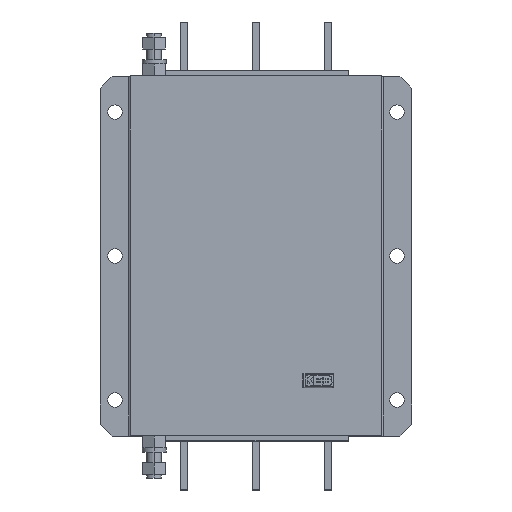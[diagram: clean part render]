
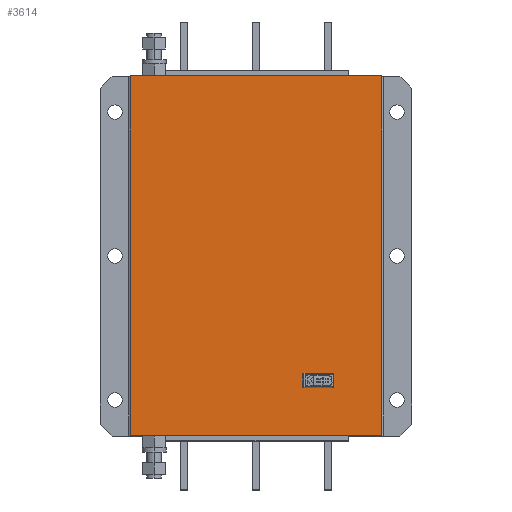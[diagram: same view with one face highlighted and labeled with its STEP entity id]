
A CAD part, top view. The second image highlights one B-rep face of the part: STEP entity #3614.
In plain terms, the highlighted planar face has unit normal (0, 0, 1).
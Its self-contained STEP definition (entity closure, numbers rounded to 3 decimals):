
#73 = EDGE_CURVE ( 'NONE', #1342, #1952, #6542, .T. ) ;
#92 = CARTESIAN_POINT ( 'NONE',  ( 64., -264.25, 113. ) ) ;
#95 = VERTEX_POINT ( 'NONE', #6293 ) ;
#105 = CARTESIAN_POINT ( 'NONE',  ( 65., -263.25, 113. ) ) ;
#121 = EDGE_CURVE ( 'NONE', #5313, #5598, #371, .T. ) ;
#136 = AXIS2_PLACEMENT_3D ( 'NONE', #6453, #1177, #179 ) ;
#142 = VERTEX_POINT ( 'NONE', #1503 ) ;
#146 = DIRECTION ( 'NONE',  ( 0., -1., 0. ) ) ;
#162 = EDGE_CURVE ( 'NONE', #5598, #142, #5680, .T. ) ;
#179 = DIRECTION ( 'NONE',  ( 0., -1., 0. ) ) ;
#191 = DIRECTION ( 'NONE',  ( 0., 1., 0. ) ) ;
#211 = DIRECTION ( 'NONE',  ( -1., 0., 0. ) ) ;
#363 = ORIENTED_EDGE ( 'NONE', *, *, #446, .T. ) ;
#371 = LINE ( 'NONE', #4115, #4608 ) ;
#432 = DIRECTION ( 'NONE',  ( 0., 0., -1. ) ) ;
#446 = EDGE_CURVE ( 'NONE', #2290, #2969, #6737, .T. ) ;
#511 = VERTEX_POINT ( 'NONE', #4692 ) ;
#652 = VERTEX_POINT ( 'NONE', #1671 ) ;
#667 = CARTESIAN_POINT ( 'NONE',  ( 39., -253.25, 113. ) ) ;
#784 = LINE ( 'NONE', #4914, #5782 ) ;
#895 = AXIS2_PLACEMENT_3D ( 'NONE', #3748, #2717, #211 ) ;
#926 = DIRECTION ( 'NONE',  ( 1., 0., 0. ) ) ;
#944 = DIRECTION ( 'NONE',  ( 0., 0., -1. ) ) ;
#1003 = EDGE_CURVE ( 'NONE', #652, #95, #3819, .T. ) ;
#1109 = EDGE_LOOP ( 'NONE', ( #4305, #1306, #5932, #6671 ) ) ;
#1177 = DIRECTION ( 'NONE',  ( 0., 0., 1. ) ) ;
#1199 = CARTESIAN_POINT ( 'NONE',  ( -105., -304.25, 113. ) ) ;
#1306 = ORIENTED_EDGE ( 'NONE', *, *, #2533, .T. ) ;
#1342 = VERTEX_POINT ( 'NONE', #1199 ) ;
#1430 = LINE ( 'NONE', #4519, #6202 ) ;
#1503 = CARTESIAN_POINT ( 'NONE',  ( 39., -263.25, 113. ) ) ;
#1671 = CARTESIAN_POINT ( 'NONE',  ( 65., -253.25, 113. ) ) ;
#1707 = CARTESIAN_POINT ( 'NONE',  ( 105., -304.25, 113. ) ) ;
#1738 = LINE ( 'NONE', #5350, #1762 ) ;
#1759 = EDGE_CURVE ( 'NONE', #6681, #511, #1738, .T. ) ;
#1762 = VECTOR ( 'NONE', #191, 1000. ) ;
#1792 = DIRECTION ( 'NONE',  ( 0., 1., 0. ) ) ;
#1914 = AXIS2_PLACEMENT_3D ( 'NONE', #6189, #432, #926 ) ;
#1952 = VERTEX_POINT ( 'NONE', #4646 ) ;
#2018 = CARTESIAN_POINT ( 'NONE',  ( 40., -264.25, 113. ) ) ;
#2051 = DIRECTION ( 'NONE',  ( 0., 0., -1. ) ) ;
#2215 = FACE_BOUND ( 'NONE', #2747, .T. ) ;
#2221 = ORIENTED_EDGE ( 'NONE', *, *, #5118, .T. ) ;
#2255 = VECTOR ( 'NONE', #5622, 1000. ) ;
#2290 = VERTEX_POINT ( 'NONE', #3532 ) ;
#2446 = CIRCLE ( 'NONE', #2575, 1. ) ;
#2533 = EDGE_CURVE ( 'NONE', #1342, #6681, #1430, .T. ) ;
#2575 = AXIS2_PLACEMENT_3D ( 'NONE', #5202, #2051, #4140 ) ;
#2619 = DIRECTION ( 'NONE',  ( -1., 0., 0. ) ) ;
#2717 = DIRECTION ( 'NONE',  ( 0., 0., -1. ) ) ;
#2747 = EDGE_LOOP ( 'NONE', ( #2221, #3408, #363, #5513, #4273, #3003, #3997, #5873 ) ) ;
#2814 = FACE_OUTER_BOUND ( 'NONE', #1109, .T. ) ;
#2969 = VERTEX_POINT ( 'NONE', #4614 ) ;
#2999 = EDGE_CURVE ( 'NONE', #2969, #652, #4654, .T. ) ;
#3003 = ORIENTED_EDGE ( 'NONE', *, *, #3174, .T. ) ;
#3139 = CARTESIAN_POINT ( 'NONE',  ( 64., -252.25, 113. ) ) ;
#3174 = EDGE_CURVE ( 'NONE', #95, #5313, #4882, .T. ) ;
#3408 = ORIENTED_EDGE ( 'NONE', *, *, #5544, .T. ) ;
#3532 = CARTESIAN_POINT ( 'NONE',  ( 40., -252.25, 113. ) ) ;
#3614 = ADVANCED_FACE ( 'NONE', ( #2814, #2215 ), #4335, .T. ) ;
#3643 = CARTESIAN_POINT ( 'NONE',  ( -105., -4.25, 113. ) ) ;
#3748 = CARTESIAN_POINT ( 'NONE',  ( 64., -263.25, 113. ) ) ;
#3819 = LINE ( 'NONE', #105, #5532 ) ;
#3997 = ORIENTED_EDGE ( 'NONE', *, *, #121, .T. ) ;
#4047 = CARTESIAN_POINT ( 'NONE',  ( -105., -546.636, 113. ) ) ;
#4115 = CARTESIAN_POINT ( 'NONE',  ( 64., -264.25, 113. ) ) ;
#4138 = LINE ( 'NONE', #3643, #5889 ) ;
#4140 = DIRECTION ( 'NONE',  ( 1., 0., 0. ) ) ;
#4189 = EDGE_CURVE ( 'NONE', #1952, #511, #4138, .T. ) ;
#4273 = ORIENTED_EDGE ( 'NONE', *, *, #1003, .T. ) ;
#4305 = ORIENTED_EDGE ( 'NONE', *, *, #73, .F. ) ;
#4335 = PLANE ( 'NONE',  #136 ) ;
#4519 = CARTESIAN_POINT ( 'NONE',  ( -105., -304.25, 113. ) ) ;
#4608 = VECTOR ( 'NONE', #2619, 1000. ) ;
#4614 = CARTESIAN_POINT ( 'NONE',  ( 64., -252.25, 113. ) ) ;
#4646 = CARTESIAN_POINT ( 'NONE',  ( -105., -4.25, 113. ) ) ;
#4654 = CIRCLE ( 'NONE', #5322, 1. ) ;
#4692 = CARTESIAN_POINT ( 'NONE',  ( 105., -4.25, 113. ) ) ;
#4878 = DIRECTION ( 'NONE',  ( 0., 1., 0. ) ) ;
#4882 = CIRCLE ( 'NONE', #895, 1. ) ;
#4914 = CARTESIAN_POINT ( 'NONE',  ( 39., -263.25, 113. ) ) ;
#5118 = EDGE_CURVE ( 'NONE', #142, #5726, #784, .T. ) ;
#5199 = DIRECTION ( 'NONE',  ( 1., 0., 0. ) ) ;
#5202 = CARTESIAN_POINT ( 'NONE',  ( 40., -253.25, 113. ) ) ;
#5313 = VERTEX_POINT ( 'NONE', #92 ) ;
#5322 = AXIS2_PLACEMENT_3D ( 'NONE', #6245, #944, #5199 ) ;
#5350 = CARTESIAN_POINT ( 'NONE',  ( 105., -546.636, 113. ) ) ;
#5513 = ORIENTED_EDGE ( 'NONE', *, *, #2999, .T. ) ;
#5532 = VECTOR ( 'NONE', #146, 1000. ) ;
#5544 = EDGE_CURVE ( 'NONE', #5726, #2290, #2446, .T. ) ;
#5598 = VERTEX_POINT ( 'NONE', #2018 ) ;
#5622 = DIRECTION ( 'NONE',  ( 1., 0., 0. ) ) ;
#5680 = CIRCLE ( 'NONE', #1914, 1. ) ;
#5726 = VERTEX_POINT ( 'NONE', #667 ) ;
#5782 = VECTOR ( 'NONE', #4878, 1000. ) ;
#5873 = ORIENTED_EDGE ( 'NONE', *, *, #162, .T. ) ;
#5889 = VECTOR ( 'NONE', #6247, 1000. ) ;
#5932 = ORIENTED_EDGE ( 'NONE', *, *, #1759, .T. ) ;
#6189 = CARTESIAN_POINT ( 'NONE',  ( 40., -263.25, 113. ) ) ;
#6202 = VECTOR ( 'NONE', #6607, 1000. ) ;
#6245 = CARTESIAN_POINT ( 'NONE',  ( 64., -253.25, 113. ) ) ;
#6247 = DIRECTION ( 'NONE',  ( 1., 0., 0. ) ) ;
#6293 = CARTESIAN_POINT ( 'NONE',  ( 65., -263.25, 113. ) ) ;
#6453 = CARTESIAN_POINT ( 'NONE',  ( -105., -546.636, 113. ) ) ;
#6542 = LINE ( 'NONE', #4047, #6715 ) ;
#6607 = DIRECTION ( 'NONE',  ( 1., 0., 0. ) ) ;
#6671 = ORIENTED_EDGE ( 'NONE', *, *, #4189, .F. ) ;
#6681 = VERTEX_POINT ( 'NONE', #1707 ) ;
#6715 = VECTOR ( 'NONE', #1792, 1000. ) ;
#6737 = LINE ( 'NONE', #3139, #2255 ) ;
